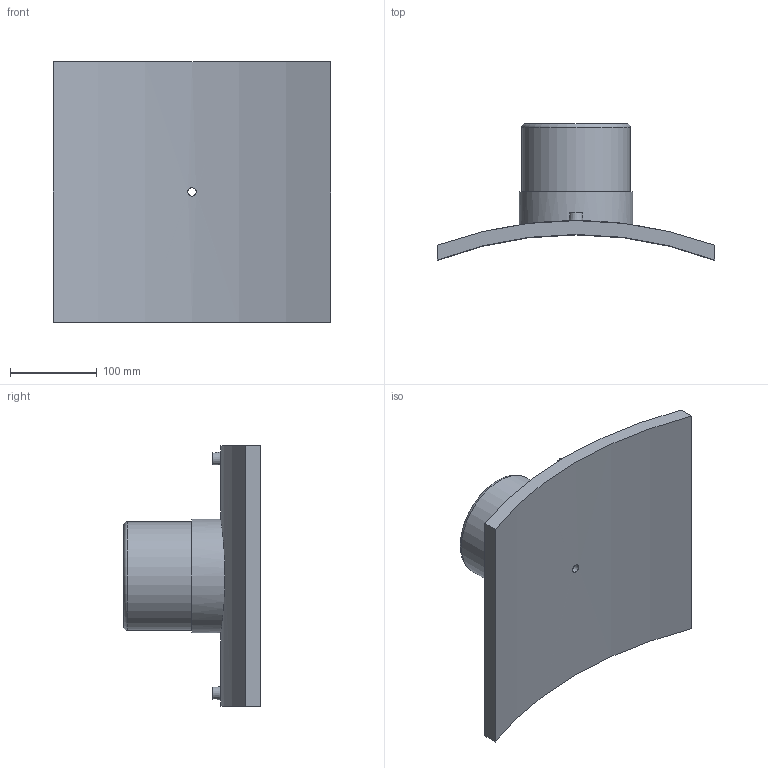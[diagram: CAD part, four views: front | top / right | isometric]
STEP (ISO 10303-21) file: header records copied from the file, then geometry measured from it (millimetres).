
FILE_DESCRIPTION(/* description */ ('PLASSON BRANCH SADDLE 900x125'),/* implementation_level */ '2;1');
FILE_NAME(/* name */ 'C:\Dropbox\KIMPROJECTS-Inventor 2019\99-16-3568-Processing\ElectroFusion Fittings\495803\stp\495803900125T.stp',/* time_stamp */ '2024-04-04T11:49:57+02:00',/* author */ ('KIM'),/* organization */ (''),/* preprocessor_version */ 'ST-DEVELOPER v17.2',/* originating_system */ 'Autodesk Inventor 2019',/* authorisation */ '');
FILE_SCHEMA (('AUTOMOTIVE_DESIGN { 1 0 10303 214 3 1 1 }'));
Length unit declared in the file: millimetre
Products named in the file (1): 495803900125T
Bounding box: 320 x 157.41 x 300 mm (x, y, z)
Volume: 2120951 mm3; surface area: 303489.6 mm2
Topology: 1 solids, 1 shells, 29 faces, 60 edges, 43 vertices
Faces by surface type: plane 13, cylinder 12, torus 2, cone 2
Full cylindrical faces by diameter (mm): 4 x2, 9.6 x1, 10 x2, 16 x1, 100 x1, 125 x1, 131.25 x1
Entity records: 1086 total; most frequent: CARTESIAN_POINT 400, DIRECTION 139, ORIENTED_EDGE 120, EDGE_CURVE 60, AXIS2_PLACEMENT_3D 60, VERTEX_POINT 43, EDGE_LOOP 41, CIRCLE 30
